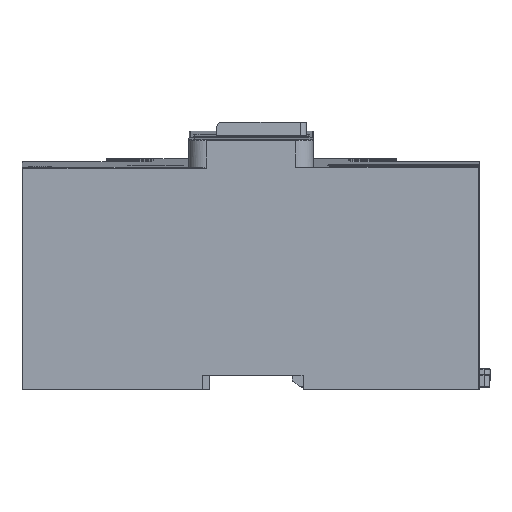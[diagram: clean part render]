
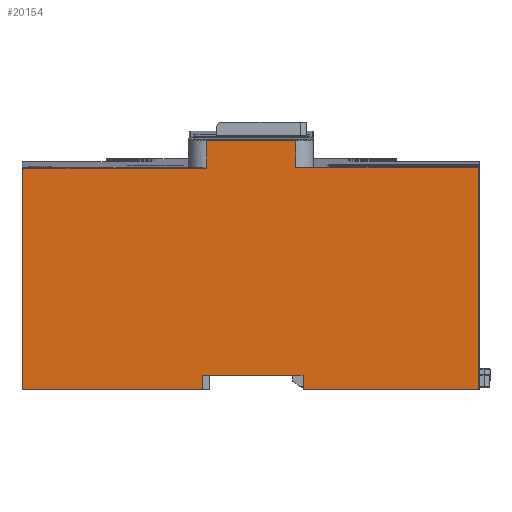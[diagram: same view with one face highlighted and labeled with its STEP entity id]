
A CAD part, left-side view. The second image highlights one B-rep face of the part: STEP entity #20154.
In plain terms, the highlighted planar face has unit normal (-1, 0, 0).
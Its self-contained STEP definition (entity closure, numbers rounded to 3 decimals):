
#14=DIRECTION('',(0.,-1.,0.));
#15=VECTOR('',#14,63.113);
#16=CARTESIAN_POINT('',(0.,67.213,0.));
#17=LINE('',#16,#15);
#18=DIRECTION('',(0.,0.,1.));
#19=VECTOR('',#18,80.003);
#20=CARTESIAN_POINT('',(0.,4.1,0.));
#21=LINE('',#20,#19);
#22=DIRECTION('',(0.,0.,1.));
#23=VECTOR('',#22,5.2);
#24=CARTESIAN_POINT('',(0.,67.213,0.));
#25=LINE('',#24,#23);
#26=DIRECTION('',(0.,1.,0.));
#27=VECTOR('',#26,36.175);
#28=CARTESIAN_POINT('',(0.,67.213,5.2));
#29=LINE('',#28,#27);
#34=DIRECTION('',(0.,0.,-1.));
#35=VECTOR('',#34,79.706);
#36=CARTESIAN_POINT('',(0.,167.919,79.706));
#37=LINE('',#36,#35);
#43=DIRECTION('',(0.,-1.,0.));
#44=VECTOR('',#43,64.532);
#45=CARTESIAN_POINT('',(0.,167.919,0.));
#46=LINE('',#45,#44);
#59=DIRECTION('',(0.,0.,1.));
#60=VECTOR('',#59,5.2);
#61=CARTESIAN_POINT('',(0.,103.387,0.));
#62=LINE('',#61,#60);
#773=DIRECTION('',(0.,1.,0.));
#774=VECTOR('',#773,65.769);
#775=CARTESIAN_POINT('',(0.,4.1,80.003));
#776=LINE('',#775,#774);
#2014=DIRECTION('',(0.,1.,0.));
#2015=VECTOR('',#2014,66.024);
#2016=CARTESIAN_POINT('',(0.,101.895,79.706));
#2017=LINE('',#2016,#2015);
#2039=DIRECTION('',(0.,0.,-1.));
#2040=VECTOR('',#2039,9.9);
#2041=CARTESIAN_POINT('',(0.,101.895,89.606));
#2042=LINE('',#2041,#2040);
#2172=DIRECTION('',(0.,0.,1.));
#2173=VECTOR('',#2172,9.603);
#2174=CARTESIAN_POINT('',(0.,69.869,80.003));
#2175=LINE('',#2174,#2173);
#2316=DIRECTION('',(0.,1.,0.));
#2317=VECTOR('',#2316,32.025);
#2318=CARTESIAN_POINT('',(0.,69.869,89.606));
#2319=LINE('',#2318,#2317);
#7949=CARTESIAN_POINT('',(0.,67.213,0.));
#15715=CARTESIAN_POINT('',(0.,4.1,0.));
#15717=VERTEX_POINT('',#15715);
#15723=VERTEX_POINT('',#7949);
#15724=CARTESIAN_POINT('',(0.,4.1,80.003));
#15725=VERTEX_POINT('',#15724);
#15727=CARTESIAN_POINT('',(0.,167.919,79.706));
#15728=CARTESIAN_POINT('',(0.,167.919,0.));
#15729=VERTEX_POINT('',#15727);
#15730=VERTEX_POINT('',#15728);
#15731=CARTESIAN_POINT('',(0.,101.895,79.706));
#15732=VERTEX_POINT('',#15731);
#15733=CARTESIAN_POINT('',(0.,101.895,
89.606));
#15734=VERTEX_POINT('',#15733);
#15735=CARTESIAN_POINT('',(0.,69.869,
89.606));
#15736=VERTEX_POINT('',#15735);
#15737=CARTESIAN_POINT('',(0.,69.869,80.003));
#15738=VERTEX_POINT('',#15737);
#15739=CARTESIAN_POINT('',(0.,67.213,5.2));
#15740=VERTEX_POINT('',#15739);
#15741=CARTESIAN_POINT('',(0.,103.387,5.2));
#15742=VERTEX_POINT('',#15741);
#15743=CARTESIAN_POINT('',(0.,103.387,0.));
#15744=VERTEX_POINT('',#15743);
#20125=CARTESIAN_POINT('',(0.,168.219,0.));
#20126=DIRECTION('',(-1.,0.,0.));
#20127=DIRECTION('',(0.,-1.,0.));
#20128=AXIS2_PLACEMENT_3D('',#20125,#20126,#20127);
#20129=PLANE('',#20128);
#20131=ORIENTED_EDGE('',*,*,#20130,.F.);
#20133=ORIENTED_EDGE('',*,*,#20132,.F.);
#20135=ORIENTED_EDGE('',*,*,#20134,.F.);
#20137=ORIENTED_EDGE('',*,*,#20136,.F.);
#20139=ORIENTED_EDGE('',*,*,#20138,.F.);
#20141=ORIENTED_EDGE('',*,*,#20140,.F.);
#20142=ORIENTED_EDGE('',*,*,#20116,.F.);
#20143=ORIENTED_EDGE('',*,*,#20105,.F.);
#20145=ORIENTED_EDGE('',*,*,#20144,.T.);
#20147=ORIENTED_EDGE('',*,*,#20146,.T.);
#20149=ORIENTED_EDGE('',*,*,#20148,.F.);
#20151=ORIENTED_EDGE('',*,*,#20150,.F.);
#20152=EDGE_LOOP('',(#20131,#20133,#20135,#20137,#20139,#20141,#20142,#20143,
#20145,#20147,#20149,#20151));
#20153=FACE_OUTER_BOUND('',#20152,.F.);
#20154=ADVANCED_FACE('',(#20153),#20129,.T.);
#20105=EDGE_CURVE('',#15723,#15717,#17,.T.);
#20116=EDGE_CURVE('',#15717,#15725,#21,.T.);
#20130=EDGE_CURVE('',#15729,#15730,#37,.T.);
#20132=EDGE_CURVE('',#15732,#15729,#2017,.T.);
#20134=EDGE_CURVE('',#15734,#15732,#2042,.T.);
#20136=EDGE_CURVE('',#15736,#15734,#2319,.T.);
#20138=EDGE_CURVE('',#15738,#15736,#2175,.T.);
#20140=EDGE_CURVE('',#15725,#15738,#776,.T.);
#20144=EDGE_CURVE('',#15723,#15740,#25,.T.);
#20146=EDGE_CURVE('',#15740,#15742,#29,.T.);
#20148=EDGE_CURVE('',#15744,#15742,#62,.T.);
#20150=EDGE_CURVE('',#15730,#15744,#46,.T.);
